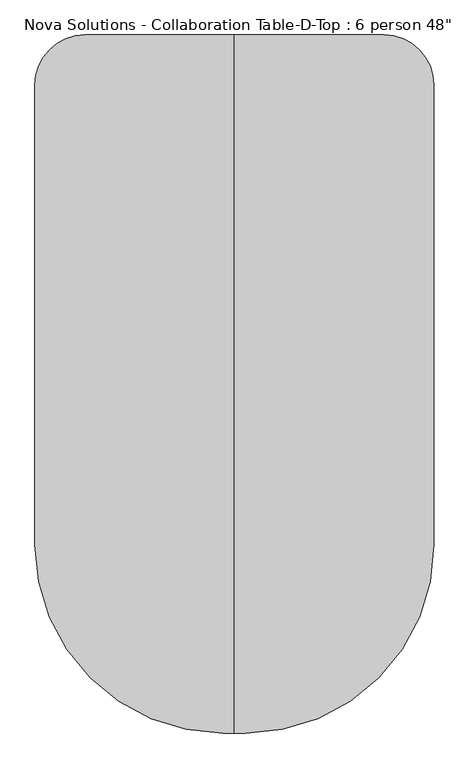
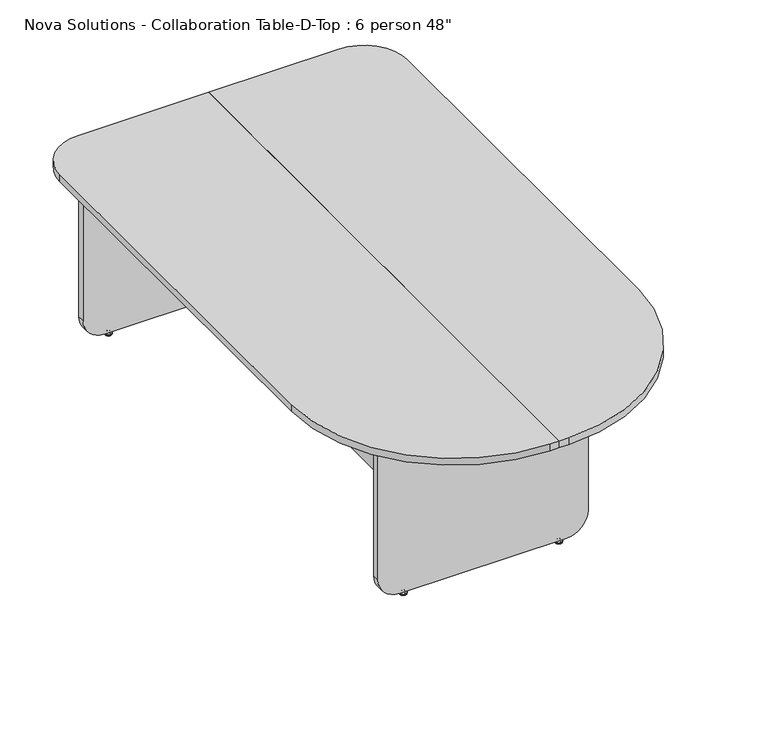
"""IFC4 building model written with IfcOpenShell, lengths in millimetres: furniture geometry."""

from ifc_helpers import new_model, si_unit, point, frame, frame_2d, origin, place, context, project, spatial, polyline, circle_curve, ellipse_curve, trimmed, segment, composite_curve, outline, extrude, source, transform, mapped, element, save
from ifc_brep_helpers import plane_surface, cylinder_surface, revolved_surface, advanced_brep


def furniture_c58f75bd(model_context):
    return source(origin(), model_context, "Body", "SolidModel", [
        extrude(outline(polyline([(-136.57, 1038.2), (-136.57, -576.1), (-152.77, -576.1), (-152.77, 1038.2), (-136.57, 1038.2)])), frame((0.0, 0.0, 181.85), z_axis=(0.0, 0.0, 1.0), x_axis=(1.0, 0.0, 0.0)), (0.0, 0.0, 1.0), 553.0),
        extrude(outline(polyline([(136.57, 1038.2), (152.77, 1038.2), (152.77, -576.1), (136.57, -576.1), (136.57, 1038.2)])), frame((0.0, 0.0, 181.85), z_axis=(0.0, 0.0, 1.0), x_axis=(1.0, 0.0, 0.0)), (0.0, 0.0, 1.0), 553.0),
        advanced_brep(
        [(361.0578125, 1057.7276506, 11.1125), (361.0578125, 1044.3723494, 11.1125), (361.0578125, 1051.05, 11.1125), (361.0578125, 1057.7276506, 9.525), (361.0578125, 1044.3723494, 9.525), (361.0578125, 1062.9355135, 4.7748687), (361.0578125, 1039.1644865, 4.7748687), (361.0578125, 1063.7966506, 3.989419), (361.0578125, 1038.3033494, 3.989419), (361.0578125, 1063.7966506, 3.175), (361.0578125, 1038.3033494, 3.175), (361.0578125, 1062.9459119, 0.0), (361.0578125, 1039.1540881, 0.0), (361.0578125, 1051.05, 0.0)],
        [
            (0, 1, circle_curve(frame((361.0578125, 1051.05, 11.1125), z_axis=(0.0, 0.0, 1.0), x_axis=(0.0, -1.0, 0.0)), 6.6776506)),
            (1, 2),
            (2, 0),
            (1, 0, circle_curve(frame((361.0578125, 1051.05, 11.1125), z_axis=(0.0, 0.0, 1.0), x_axis=(0.0, -1.0, 0.0)), 6.6776506)),
            (3, 4, circle_curve(frame((361.0578125, 1051.05, 9.525), z_axis=(0.0, 0.0, 1.0), x_axis=(0.0, -1.0, 0.0)), 6.6776506)),
            (4, 1),
            (0, 3),
            (4, 3, circle_curve(frame((361.0578125, 1051.05, 9.525), z_axis=(0.0, 0.0, 1.0), x_axis=(0.0, -1.0, 0.0)), 6.6776506)),
            (5, 6, circle_curve(frame((361.0578125, 1051.05, 4.7748687), z_axis=(0.0, 0.0, 1.0), x_axis=(0.0, -1.0, 0.0)), 11.8855135)),
            (6, 4, circle_curve(frame((361.0578125, 1038.1179373, 11.1521822), z_axis=(1.0, 0.0, 0.0), x_axis=(0.0, 1.0, 0.0)), 6.462615)),
            (3, 5, circle_curve(frame((361.0578125, 1063.9820627, 11.1521822), z_axis=(1.0, 0.0, 0.0), x_axis=(0.0, -1.0, 0.0)), 6.462615)),
            (6, 5, circle_curve(frame((361.0578125, 1051.05, 4.7748687), z_axis=(0.0, 0.0, 1.0), x_axis=(0.0, -1.0, 0.0)), 11.8855135)),
            (7, 8, circle_curve(frame((361.0578125, 1051.05, 3.989419), z_axis=(0.0, 0.0, 1.0), x_axis=(0.0, -1.0, 0.0)), 12.7466506)),
            (8, 6, circle_curve(frame((361.0578125, 1039.3375368, 3.7203591), z_axis=(-1.0, 0.0, 0.0), x_axis=(0.0, 1.0, 0.0)), 1.0686145)),
            (5, 7, circle_curve(frame((361.0578125, 1062.7624632, 3.7203591), z_axis=(-1.0, 0.0, 0.0), x_axis=(0.0, -1.0, 0.0)), 1.0686145)),
            (8, 7, circle_curve(frame((361.0578125, 1051.05, 3.989419), z_axis=(0.0, 0.0, 1.0), x_axis=(0.0, -1.0, 0.0)), 12.7466506)),
            (9, 10, circle_curve(frame((361.0578125, 1051.05, 3.175), z_axis=(0.0, 0.0, 1.0), x_axis=(0.0, -1.0, 0.0)), 12.7466506)),
            (10, 8),
            (7, 9),
            (10, 9, circle_curve(frame((361.0578125, 1051.05, 3.175), z_axis=(0.0, 0.0, 1.0), x_axis=(0.0, -1.0, 0.0)), 12.7466506)),
            (11, 12, circle_curve(frame((361.0578125, 1051.05, 0.0), z_axis=(0.0, 0.0, 1.0), x_axis=(0.0, -1.0, 0.0)), 11.8959119)),
            (12, 10),
            (9, 11),
            (12, 11, circle_curve(frame((361.0578125, 1051.05, 0.0), z_axis=(0.0, 0.0, 1.0), x_axis=(0.0, -1.0, 0.0)), 11.8959119)),
            (13, 12),
            (11, 13),
        ],
        [
            plane_surface(frame((361.0578125, 1051.05, 11.1125), z_axis=(0.0, 0.0, 1.0), x_axis=(0.0, -1.0, 0.0))),
            cylinder_surface(frame((361.0578125, 1051.05, 43.2095994), z_axis=(0.0, 0.0, -1.0), x_axis=(0.0, -1.0, 0.0)), 6.6776506),
            revolved_surface(trimmed(ellipse_curve(frame((361.0578125, 1038.1179373, 11.1521822), z_axis=(-1.0, 0.0, 0.0), x_axis=(0.0, 1.0, 0.0)), 6.462615, 6.462615), [point((361.0578125, 1044.3723494, 9.525))], [point((361.0578125, 1039.1644865, 4.7748687))], True, "CARTESIAN"), (361.0578125, 1051.05, 43.2095994), (0.0, 0.0, -1.0)),
            revolved_surface(trimmed(ellipse_curve(frame((361.0578125, 1039.3375368, 3.7203591), z_axis=(1.0, 0.0, 0.0), x_axis=(0.0, 1.0, 0.0)), 1.0686145, 1.0686145), [point((361.0578125, 1039.1644865, 4.7748687))], [point((361.0578125, 1038.3033494, 3.989419))], True, "CARTESIAN"), (361.0578125, 1051.05, 43.2095994), (0.0, 0.0, -1.0)),
            cylinder_surface(frame((361.0578125, 1051.05, 43.2095994), z_axis=(0.0, 0.0, -1.0), x_axis=(0.0, -1.0, 0.0)), 12.7466506),
            revolved_surface(polyline([(361.0578125, 1038.3033494, 3.175), (361.0578125, 1039.1540881, 0.0)]), (361.0578125, 1051.05, 43.2095994), (0.0, 0.0, -1.0)),
            plane_surface(frame((361.0578125, 1051.05, 0.0), z_axis=(0.0, 0.0, -1.0), x_axis=(0.0, -1.0, 0.0))),
        ],
        [
            (0, [[1, 2, 3]]),
            (0, [[4, -3, -2]]),
            (1, [[5, 6, -1, 7]]),
            (1, [[8, -7, -4, -6]]),
            (2, [[9, 10, -5, 11]]),
            (2, [[12, -11, -8, -10]]),
            (3, [[13, 14, -9, 15]]),
            (3, [[16, -15, -12, -14]]),
            (4, [[17, 18, -13, 19]]),
            (4, [[20, -19, -16, -18]]),
            (5, [[21, 22, -17, 23]]),
            (5, [[24, -23, -20, -22]]),
            (6, [[25, -21, 26]]),
            (6, [[-26, -24, -25]]),
        ],
    ),
        advanced_brep(
        [(-361.0578125, 1057.7276506, 11.1125), (-361.0578125, 1044.3723494, 11.1125), (-361.0578125, 1051.05, 11.1125), (-361.0578125, 1057.7276506, 9.525), (-361.0578125, 1044.3723494, 9.525), (-361.0578125, 1062.9355135, 4.7748687), (-361.0578125, 1039.1644865, 4.7748687), (-361.0578125, 1063.7966506, 3.989419), (-361.0578125, 1038.3033494, 3.989419), (-361.0578125, 1063.7966506, 3.175), (-361.0578125, 1038.3033494, 3.175), (-361.0578125, 1062.9459119, 0.0), (-361.0578125, 1039.1540881, 0.0), (-361.0578125, 1051.05, 0.0)],
        [
            (0, 1, circle_curve(frame((-361.0578125, 1051.05, 11.1125), z_axis=(0.0, 0.0, 1.0), x_axis=(0.0, -1.0, 0.0)), 6.6776506)),
            (1, 2),
            (2, 0),
            (1, 0, circle_curve(frame((-361.0578125, 1051.05, 11.1125), z_axis=(0.0, 0.0, 1.0), x_axis=(0.0, -1.0, 0.0)), 6.6776506)),
            (3, 4, circle_curve(frame((-361.0578125, 1051.05, 9.525), z_axis=(0.0, 0.0, 1.0), x_axis=(0.0, -1.0, 0.0)), 6.6776506)),
            (4, 1),
            (0, 3),
            (4, 3, circle_curve(frame((-361.0578125, 1051.05, 9.525), z_axis=(0.0, 0.0, 1.0), x_axis=(0.0, -1.0, 0.0)), 6.6776506)),
            (5, 6, circle_curve(frame((-361.0578125, 1051.05, 4.7748687), z_axis=(0.0, 0.0, 1.0), x_axis=(0.0, -1.0, 0.0)), 11.8855135)),
            (6, 4, circle_curve(frame((-361.0578125, 1038.1179373, 11.1521822), z_axis=(1.0, 0.0, 0.0), x_axis=(0.0, 1.0, 0.0)), 6.462615)),
            (3, 5, circle_curve(frame((-361.0578125, 1063.9820627, 11.1521822), z_axis=(1.0, 0.0, 0.0), x_axis=(0.0, -1.0, 0.0)), 6.462615)),
            (6, 5, circle_curve(frame((-361.0578125, 1051.05, 4.7748687), z_axis=(0.0, 0.0, 1.0), x_axis=(0.0, -1.0, 0.0)), 11.8855135)),
            (7, 8, circle_curve(frame((-361.0578125, 1051.05, 3.989419), z_axis=(0.0, 0.0, 1.0), x_axis=(0.0, -1.0, 0.0)), 12.7466506)),
            (8, 6, circle_curve(frame((-361.0578125, 1039.3375368, 3.7203591), z_axis=(-1.0, 0.0, 0.0), x_axis=(0.0, 1.0, 0.0)), 1.0686145)),
            (5, 7, circle_curve(frame((-361.0578125, 1062.7624632, 3.7203591), z_axis=(-1.0, 0.0, 0.0), x_axis=(0.0, -1.0, 0.0)), 1.0686145)),
            (8, 7, circle_curve(frame((-361.0578125, 1051.05, 3.989419), z_axis=(0.0, 0.0, 1.0), x_axis=(0.0, -1.0, 0.0)), 12.7466506)),
            (9, 10, circle_curve(frame((-361.0578125, 1051.05, 3.175), z_axis=(0.0, 0.0, 1.0), x_axis=(0.0, -1.0, 0.0)), 12.7466506)),
            (10, 8),
            (7, 9),
            (10, 9, circle_curve(frame((-361.0578125, 1051.05, 3.175), z_axis=(0.0, 0.0, 1.0), x_axis=(0.0, -1.0, 0.0)), 12.7466506)),
            (11, 12, circle_curve(frame((-361.0578125, 1051.05, 0.0), z_axis=(0.0, 0.0, 1.0), x_axis=(0.0, -1.0, 0.0)), 11.8959119)),
            (12, 10),
            (9, 11),
            (12, 11, circle_curve(frame((-361.0578125, 1051.05, 0.0), z_axis=(0.0, 0.0, 1.0), x_axis=(0.0, -1.0, 0.0)), 11.8959119)),
            (13, 12),
            (11, 13),
        ],
        [
            plane_surface(frame((-361.0578125, 1051.05, 11.1125), z_axis=(0.0, 0.0, 1.0), x_axis=(0.0, -1.0, 0.0))),
            cylinder_surface(frame((-361.0578125, 1051.05, 43.2095994), z_axis=(0.0, 0.0, -1.0), x_axis=(0.0, -1.0, 0.0)), 6.6776506),
            revolved_surface(trimmed(ellipse_curve(frame((-361.0578125, 1038.1179373, 11.1521822), z_axis=(-1.0, 0.0, 0.0), x_axis=(0.0, 1.0, 0.0)), 6.462615, 6.462615), [point((-361.0578125, 1044.3723494, 9.525))], [point((-361.0578125, 1039.1644865, 4.7748687))], True, "CARTESIAN"), (-361.0578125, 1051.05, 43.2095994), (0.0, 0.0, -1.0)),
            revolved_surface(trimmed(ellipse_curve(frame((-361.0578125, 1039.3375368, 3.7203591), z_axis=(1.0, 0.0, 0.0), x_axis=(0.0, 1.0, 0.0)), 1.0686145, 1.0686145), [point((-361.0578125, 1039.1644865, 4.7748687))], [point((-361.0578125, 1038.3033494, 3.989419))], True, "CARTESIAN"), (-361.0578125, 1051.05, 43.2095994), (0.0, 0.0, -1.0)),
            cylinder_surface(frame((-361.0578125, 1051.05, 43.2095994), z_axis=(0.0, 0.0, -1.0), x_axis=(0.0, -1.0, 0.0)), 12.7466506),
            revolved_surface(polyline([(-361.0578125, 1038.3033494, 3.175), (-361.0578125, 1039.1540881, 0.0)]), (-361.0578125, 1051.05, 43.2095994), (0.0, 0.0, -1.0)),
            plane_surface(frame((-361.0578125, 1051.05, 0.0), z_axis=(0.0, 0.0, -1.0), x_axis=(0.0, -1.0, 0.0))),
        ],
        [
            (0, [[1, 2, 3]]),
            (0, [[4, -3, -2]]),
            (1, [[5, 6, -1, 7]]),
            (1, [[8, -7, -4, -6]]),
            (2, [[9, 10, -5, 11]]),
            (2, [[12, -11, -8, -10]]),
            (3, [[13, 14, -9, 15]]),
            (3, [[16, -15, -12, -14]]),
            (4, [[17, 18, -13, 19]]),
            (4, [[20, -19, -16, -18]]),
            (5, [[21, 22, -17, 23]]),
            (5, [[24, -23, -20, -22]]),
            (6, [[25, -21, 26]]),
            (6, [[-26, -24, -25]]),
        ],
    ),
        extrude(outline(composite_curve([segment(polyline([(734.85, 457.1), (734.85, -457.1), (90.15, -457.1)]), True, "CONTINUOUS"), segment(trimmed(circle_curve(frame_2d((90.15, -381.1)), 76.0), [point((90.15, -457.1))], [point((14.15, -381.1))], False, "CARTESIAN"), True, "CONTINUOUS"), segment(polyline([(14.15, -381.1), (14.15, 381.1)]), True, "CONTINUOUS"), segment(trimmed(circle_curve(frame_2d((90.15, 381.1)), 76.0), [point((14.15, 381.1))], [point((90.15, 457.1))], False, "CARTESIAN"), True, "CONTINUOUS"), segment(polyline([(90.15, 457.1), (734.85, 457.1)]), True, "CONTINUOUS")], self_intersect=False)), frame((0.0, 1038.2, 0.0), z_axis=(0.0, 1.0, 0.0), x_axis=(0.0, 0.0, 1.0)), (0.0, 0.0, 1.0), 25.7),
        advanced_brep(
        [(272.9578125, -582.2723494, 11.1125), (272.9578125, -595.6276506, 11.1125), (272.9578125, -588.95, 11.1125), (272.9578125, -582.2723494, 9.525), (272.9578125, -595.6276506, 9.525), (272.9578125, -577.0644865, 4.7748687), (272.9578125, -600.8355135, 4.7748687), (272.9578125, -576.2033494, 3.989419), (272.9578125, -601.6966506, 3.989419), (272.9578125, -576.2033494, 3.175), (272.9578125, -601.6966506, 3.175), (272.9578125, -577.0540881, 0.0), (272.9578125, -600.8459119, 0.0), (272.9578125, -588.95, 0.0)],
        [
            (0, 1, circle_curve(frame((272.9578125, -588.95, 11.1125), z_axis=(0.0, 0.0, 1.0), x_axis=(0.0, -1.0, 0.0)), 6.6776506)),
            (1, 2),
            (2, 0),
            (1, 0, circle_curve(frame((272.9578125, -588.95, 11.1125), z_axis=(0.0, 0.0, 1.0), x_axis=(0.0, -1.0, 0.0)), 6.6776506)),
            (3, 4, circle_curve(frame((272.9578125, -588.95, 9.525), z_axis=(0.0, 0.0, 1.0), x_axis=(0.0, -1.0, 0.0)), 6.6776506)),
            (4, 1),
            (0, 3),
            (4, 3, circle_curve(frame((272.9578125, -588.95, 9.525), z_axis=(0.0, 0.0, 1.0), x_axis=(0.0, -1.0, 0.0)), 6.6776506)),
            (5, 6, circle_curve(frame((272.9578125, -588.95, 4.7748687), z_axis=(0.0, 0.0, 1.0), x_axis=(0.0, -1.0, 0.0)), 11.8855135)),
            (6, 4, circle_curve(frame((272.9578125, -601.8820627, 11.1521822), z_axis=(1.0, 0.0, 0.0), x_axis=(0.0, 1.0, 0.0)), 6.462615)),
            (3, 5, circle_curve(frame((272.9578125, -576.0179373, 11.1521822), z_axis=(1.0, 0.0, 0.0), x_axis=(0.0, -1.0, 0.0)), 6.462615)),
            (6, 5, circle_curve(frame((272.9578125, -588.95, 4.7748687), z_axis=(0.0, 0.0, 1.0), x_axis=(0.0, -1.0, 0.0)), 11.8855135)),
            (7, 8, circle_curve(frame((272.9578125, -588.95, 3.989419), z_axis=(0.0, 0.0, 1.0), x_axis=(0.0, -1.0, 0.0)), 12.7466506)),
            (8, 6, circle_curve(frame((272.9578125, -600.6624632, 3.7203591), z_axis=(-1.0, 0.0, 0.0), x_axis=(0.0, 1.0, 0.0)), 1.0686145)),
            (5, 7, circle_curve(frame((272.9578125, -577.2375368, 3.7203591), z_axis=(-1.0, 0.0, 0.0), x_axis=(0.0, -1.0, 0.0)), 1.0686145)),
            (8, 7, circle_curve(frame((272.9578125, -588.95, 3.989419), z_axis=(0.0, 0.0, 1.0), x_axis=(0.0, -1.0, 0.0)), 12.7466506)),
            (9, 10, circle_curve(frame((272.9578125, -588.95, 3.175), z_axis=(0.0, 0.0, 1.0), x_axis=(0.0, -1.0, 0.0)), 12.7466506)),
            (10, 8),
            (7, 9),
            (10, 9, circle_curve(frame((272.9578125, -588.95, 3.175), z_axis=(0.0, 0.0, 1.0), x_axis=(0.0, -1.0, 0.0)), 12.7466506)),
            (11, 12, circle_curve(frame((272.9578125, -588.95, 0.0), z_axis=(0.0, 0.0, 1.0), x_axis=(0.0, -1.0, 0.0)), 11.8959119)),
            (12, 10),
            (9, 11),
            (12, 11, circle_curve(frame((272.9578125, -588.95, 0.0), z_axis=(0.0, 0.0, 1.0), x_axis=(0.0, -1.0, 0.0)), 11.8959119)),
            (13, 12),
            (11, 13),
        ],
        [
            plane_surface(frame((272.9578125, -588.95, 11.1125), z_axis=(0.0, 0.0, 1.0), x_axis=(0.0, -1.0, 0.0))),
            cylinder_surface(frame((272.9578125, -588.95, 43.2095994), z_axis=(0.0, 0.0, -1.0), x_axis=(0.0, -1.0, 0.0)), 6.6776506),
            revolved_surface(trimmed(ellipse_curve(frame((272.9578125, -601.8820627, 11.1521822), z_axis=(-1.0, 0.0, 0.0), x_axis=(0.0, 1.0, 0.0)), 6.462615, 6.462615), [point((272.9578125, -595.6276506, 9.525))], [point((272.9578125, -600.8355135, 4.7748687))], True, "CARTESIAN"), (272.9578125, -588.95, 43.2095994), (0.0, 0.0, -1.0)),
            revolved_surface(trimmed(ellipse_curve(frame((272.9578125, -600.6624632, 3.7203591), z_axis=(1.0, 0.0, 0.0), x_axis=(0.0, 1.0, 0.0)), 1.0686145, 1.0686145), [point((272.9578125, -600.8355135, 4.7748687))], [point((272.9578125, -601.6966506, 3.989419))], True, "CARTESIAN"), (272.9578125, -588.95, 43.2095994), (0.0, 0.0, -1.0)),
            cylinder_surface(frame((272.9578125, -588.95, 43.2095994), z_axis=(0.0, 0.0, -1.0), x_axis=(0.0, -1.0, 0.0)), 12.7466506),
            revolved_surface(polyline([(272.9578125, -601.6966506, 3.175), (272.9578125, -600.8459119, 0.0)]), (272.9578125, -588.95, 43.2095994), (0.0, 0.0, -1.0)),
            plane_surface(frame((272.9578125, -588.95, 0.0), z_axis=(0.0, 0.0, -1.0), x_axis=(0.0, -1.0, 0.0))),
        ],
        [
            (0, [[1, 2, 3]]),
            (0, [[4, -3, -2]]),
            (1, [[5, 6, -1, 7]]),
            (1, [[8, -7, -4, -6]]),
            (2, [[9, 10, -5, 11]]),
            (2, [[12, -11, -8, -10]]),
            (3, [[13, 14, -9, 15]]),
            (3, [[16, -15, -12, -14]]),
            (4, [[17, 18, -13, 19]]),
            (4, [[20, -19, -16, -18]]),
            (5, [[21, 22, -17, 23]]),
            (5, [[24, -23, -20, -22]]),
            (6, [[25, -21, 26]]),
            (6, [[-26, -24, -25]]),
        ],
    ),
        advanced_brep(
        [(-272.9578125, -582.2723494, 11.1125), (-272.9578125, -595.6276506, 11.1125), (-272.9578125, -588.95, 11.1125), (-272.9578125, -582.2723494, 9.525), (-272.9578125, -595.6276506, 9.525), (-272.9578125, -577.0644865, 4.7748687), (-272.9578125, -600.8355135, 4.7748687), (-272.9578125, -576.2033494, 3.989419), (-272.9578125, -601.6966506, 3.989419), (-272.9578125, -576.2033494, 3.175), (-272.9578125, -601.6966506, 3.175), (-272.9578125, -577.0540881, 0.0), (-272.9578125, -600.8459119, 0.0), (-272.9578125, -588.95, 0.0)],
        [
            (0, 1, circle_curve(frame((-272.9578125, -588.95, 11.1125), z_axis=(0.0, 0.0, 1.0), x_axis=(0.0, -1.0, 0.0)), 6.6776506)),
            (1, 2),
            (2, 0),
            (1, 0, circle_curve(frame((-272.9578125, -588.95, 11.1125), z_axis=(0.0, 0.0, 1.0), x_axis=(0.0, -1.0, 0.0)), 6.6776506)),
            (3, 4, circle_curve(frame((-272.9578125, -588.95, 9.525), z_axis=(0.0, 0.0, 1.0), x_axis=(0.0, -1.0, 0.0)), 6.6776506)),
            (4, 1),
            (0, 3),
            (4, 3, circle_curve(frame((-272.9578125, -588.95, 9.525), z_axis=(0.0, 0.0, 1.0), x_axis=(0.0, -1.0, 0.0)), 6.6776506)),
            (5, 6, circle_curve(frame((-272.9578125, -588.95, 4.7748687), z_axis=(0.0, 0.0, 1.0), x_axis=(0.0, -1.0, 0.0)), 11.8855135)),
            (6, 4, circle_curve(frame((-272.9578125, -601.8820627, 11.1521822), z_axis=(1.0, 0.0, 0.0), x_axis=(0.0, 1.0, 0.0)), 6.462615)),
            (3, 5, circle_curve(frame((-272.9578125, -576.0179373, 11.1521822), z_axis=(1.0, 0.0, 0.0), x_axis=(0.0, -1.0, 0.0)), 6.462615)),
            (6, 5, circle_curve(frame((-272.9578125, -588.95, 4.7748687), z_axis=(0.0, 0.0, 1.0), x_axis=(0.0, -1.0, 0.0)), 11.8855135)),
            (7, 8, circle_curve(frame((-272.9578125, -588.95, 3.989419), z_axis=(0.0, 0.0, 1.0), x_axis=(0.0, -1.0, 0.0)), 12.7466506)),
            (8, 6, circle_curve(frame((-272.9578125, -600.6624632, 3.7203591), z_axis=(-1.0, 0.0, 0.0), x_axis=(0.0, 1.0, 0.0)), 1.0686145)),
            (5, 7, circle_curve(frame((-272.9578125, -577.2375368, 3.7203591), z_axis=(-1.0, 0.0, 0.0), x_axis=(0.0, -1.0, 0.0)), 1.0686145)),
            (8, 7, circle_curve(frame((-272.9578125, -588.95, 3.989419), z_axis=(0.0, 0.0, 1.0), x_axis=(0.0, -1.0, 0.0)), 12.7466506)),
            (9, 10, circle_curve(frame((-272.9578125, -588.95, 3.175), z_axis=(0.0, 0.0, 1.0), x_axis=(0.0, -1.0, 0.0)), 12.7466506)),
            (10, 8),
            (7, 9),
            (10, 9, circle_curve(frame((-272.9578125, -588.95, 3.175), z_axis=(0.0, 0.0, 1.0), x_axis=(0.0, -1.0, 0.0)), 12.7466506)),
            (11, 12, circle_curve(frame((-272.9578125, -588.95, 0.0), z_axis=(0.0, 0.0, 1.0), x_axis=(0.0, -1.0, 0.0)), 11.8959119)),
            (12, 10),
            (9, 11),
            (12, 11, circle_curve(frame((-272.9578125, -588.95, 0.0), z_axis=(0.0, 0.0, 1.0), x_axis=(0.0, -1.0, 0.0)), 11.8959119)),
            (13, 12),
            (11, 13),
        ],
        [
            plane_surface(frame((-272.9578125, -588.95, 11.1125), z_axis=(0.0, 0.0, 1.0), x_axis=(0.0, -1.0, 0.0))),
            cylinder_surface(frame((-272.9578125, -588.95, 43.2095994), z_axis=(0.0, 0.0, -1.0), x_axis=(0.0, -1.0, 0.0)), 6.6776506),
            revolved_surface(trimmed(ellipse_curve(frame((-272.9578125, -601.8820627, 11.1521822), z_axis=(-1.0, 0.0, 0.0), x_axis=(0.0, 1.0, 0.0)), 6.462615, 6.462615), [point((-272.9578125, -595.6276506, 9.525))], [point((-272.9578125, -600.8355135, 4.7748687))], True, "CARTESIAN"), (-272.9578125, -588.95, 43.2095994), (0.0, 0.0, -1.0)),
            revolved_surface(trimmed(ellipse_curve(frame((-272.9578125, -600.6624632, 3.7203591), z_axis=(1.0, 0.0, 0.0), x_axis=(0.0, 1.0, 0.0)), 1.0686145, 1.0686145), [point((-272.9578125, -600.8355135, 4.7748687))], [point((-272.9578125, -601.6966506, 3.989419))], True, "CARTESIAN"), (-272.9578125, -588.95, 43.2095994), (0.0, 0.0, -1.0)),
            cylinder_surface(frame((-272.9578125, -588.95, 43.2095994), z_axis=(0.0, 0.0, -1.0), x_axis=(0.0, -1.0, 0.0)), 12.7466506),
            revolved_surface(polyline([(-272.9578125, -601.6966506, 3.175), (-272.9578125, -600.8459119, 0.0)]), (-272.9578125, -588.95, 43.2095994), (0.0, 0.0, -1.0)),
            plane_surface(frame((-272.9578125, -588.95, 0.0), z_axis=(0.0, 0.0, -1.0), x_axis=(0.0, -1.0, 0.0))),
        ],
        [
            (0, [[1, 2, 3]]),
            (0, [[4, -3, -2]]),
            (1, [[5, 6, -1, 7]]),
            (1, [[8, -7, -4, -6]]),
            (2, [[9, 10, -5, 11]]),
            (2, [[12, -11, -8, -10]]),
            (3, [[13, 14, -9, 15]]),
            (3, [[16, -15, -12, -14]]),
            (4, [[17, 18, -13, 19]]),
            (4, [[20, -19, -16, -18]]),
            (5, [[21, 22, -17, 23]]),
            (5, [[24, -23, -20, -22]]),
            (6, [[25, -21, 26]]),
            (6, [[-26, -24, -25]]),
        ],
    ),
        extrude(outline(composite_curve([segment(polyline([(734.85, 369.0), (734.85, -369.0), (90.15, -369.0)]), True, "CONTINUOUS"), segment(trimmed(circle_curve(frame_2d((90.15, -293.0)), 76.0), [point((90.15, -369.0))], [point((14.15, -293.0))], False, "CARTESIAN"), True, "CONTINUOUS"), segment(polyline([(14.15, -293.0), (14.15, 293.0)]), True, "CONTINUOUS"), segment(trimmed(circle_curve(frame_2d((90.15, 293.0)), 76.0), [point((14.15, 293.0))], [point((90.15, 369.0))], False, "CARTESIAN"), True, "CONTINUOUS"), segment(polyline([(90.15, 369.0), (734.85, 369.0)]), True, "CONTINUOUS")], self_intersect=False)), frame((0.0, -601.8, 0.0), z_axis=(0.0, 1.0, 0.0), x_axis=(0.0, 0.0, 1.0)), (0.0, 0.0, 1.0), 25.7),
        extrude(outline(composite_curve([segment(trimmed(circle_curve(frame_2d((34.6, -491.8)), 575.0), [point((609.6, -491.8))], [point((34.6, -1066.8))], False, "CARTESIAN"), True, "CONTINUOUS"), segment(polyline([(34.6, -1066.8), (0.0, -1066.8), (0.0, 1066.8), (457.2, 1066.8)]), True, "CONTINUOUS"), segment(trimmed(circle_curve(frame_2d((457.2, 914.4)), 152.4), [point((457.2, 1066.8))], [point((609.6, 914.4))], False, "CARTESIAN"), True, "CONTINUOUS"), segment(polyline([(609.6, 914.4), (609.6, -491.8)]), True, "CONTINUOUS")], self_intersect=False)), frame((0.0, 0.0, 734.85), z_axis=(0.0, 0.0, 1.0), x_axis=(1.0, 0.0, 0.0)), (0.0, 0.0, 1.0), 25.7),
        extrude(outline(composite_curve([segment(polyline([(0.0, 1066.8), (0.0, -1066.8), (-34.6, -1066.8)]), True, "CONTINUOUS"), segment(trimmed(circle_curve(frame_2d((-34.6, -491.8)), 575.0), [point((-34.6, -1066.8))], [point((-609.6, -491.8))], False, "CARTESIAN"), True, "CONTINUOUS"), segment(polyline([(-609.6, -491.8), (-609.6, 914.4)]), True, "CONTINUOUS"), segment(trimmed(circle_curve(frame_2d((-457.2, 914.4)), 152.4), [point((-609.6, 914.4))], [point((-457.2, 1066.8))], False, "CARTESIAN"), True, "CONTINUOUS"), segment(polyline([(-457.2, 1066.8), (0.0, 1066.8)]), True, "CONTINUOUS")], self_intersect=False)), frame((0.0, 0.0, 734.85), z_axis=(0.0, 0.0, 1.0), x_axis=(1.0, 0.0, 0.0)), (0.0, 0.0, 1.0), 25.7),
    ])


if __name__ == "__main__":
    model = new_model("IFC4")
    model_context = context("Model", 3, world=origin())
    ifc_project = project(units=[si_unit("LENGTHUNIT", "METRE", prefix="MILLI")], contexts=[model_context])
    site = spatial("IfcSite", under=ifc_project)
    building = spatial("IfcBuilding", under=site)
    placement = place(None, origin())
    furniture_shape = furniture_c58f75bd(model_context)
    element("IfcFurniture", 1, ObjectType="Nova Solutions - Collaboration Table-D-Top : 6 person 48\"", at=placement, inside=building, context=model_context, shape_type="MappedRepresentation", body=[
        mapped(furniture_shape, transform((0.0, 0.0, 0.0), x_axis=(1.0, 0.0, 0.0), y_axis=(0.0, 1.0, 0.0), z_axis=(0.0, 0.0, 1.0))),
    ])
    save(model, "model.ifc")
